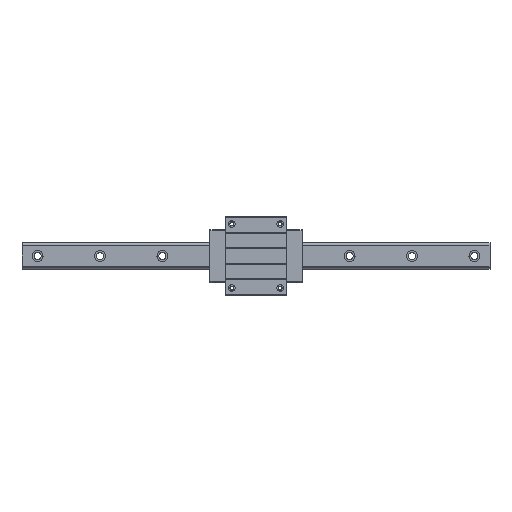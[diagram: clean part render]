
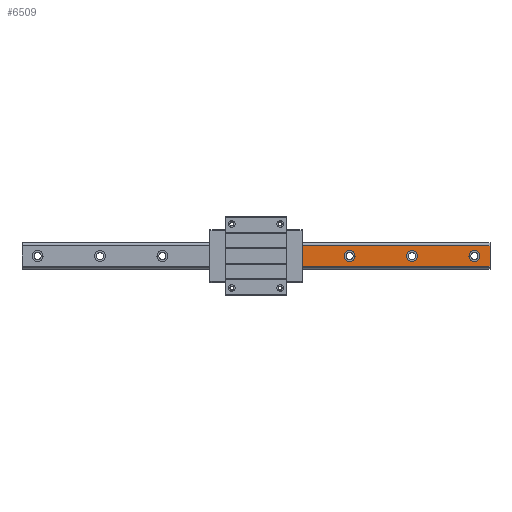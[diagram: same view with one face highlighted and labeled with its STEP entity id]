
A CAD part, top view. The second image highlights one B-rep face of the part: STEP entity #6509.
In plain terms, the highlighted planar face has unit normal (0, 0, 1).
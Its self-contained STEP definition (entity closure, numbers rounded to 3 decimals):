
#89 = CARTESIAN_POINT ( 'NONE',  ( 120., 0., 26. ) ) ;
#160 = VERTEX_POINT ( 'NONE', #5980 ) ;
#161 = ORIENTED_EDGE ( 'NONE', *, *, #6373, .T. ) ;
#258 = CARTESIAN_POINT ( 'NONE',  ( 113., 0., 26. ) ) ;
#344 = VECTOR ( 'NONE', #3740, 1000. ) ;
#372 = AXIS2_PLACEMENT_3D ( 'NONE', #2990, #5027, #513 ) ;
#513 = DIRECTION ( 'NONE',  ( -1., 0., 0. ) ) ;
#644 = DIRECTION ( 'NONE',  ( 0., 0., -1. ) ) ;
#650 = CIRCLE ( 'NONE', #1062, 7. ) ;
#674 = CARTESIAN_POINT ( 'NONE',  ( 59., -13.408, 26. ) ) ;
#935 = EDGE_CURVE ( 'NONE', #3108, #1616, #4055, .T. ) ;
#937 = VERTEX_POINT ( 'NONE', #4126 ) ;
#1062 = AXIS2_PLACEMENT_3D ( 'NONE', #1653, #2170, #5166 ) ;
#1098 = FACE_BOUND ( 'NONE', #1807, .T. ) ;
#1252 = ORIENTED_EDGE ( 'NONE', *, *, #1872, .T. ) ;
#1272 = AXIS2_PLACEMENT_3D ( 'NONE', #4146, #3841, #1841 ) ;
#1286 = EDGE_LOOP ( 'NONE', ( #3282, #4265 ) ) ;
#1410 = VERTEX_POINT ( 'NONE', #2011 ) ;
#1455 = CARTESIAN_POINT ( 'NONE',  ( 193., 0., 26. ) ) ;
#1461 = VERTEX_POINT ( 'NONE', #1624 ) ;
#1497 = ORIENTED_EDGE ( 'NONE', *, *, #4917, .T. ) ;
#1559 = CARTESIAN_POINT ( 'NONE',  ( 300., -13.408, 26. ) ) ;
#1573 = DIRECTION ( 'NONE',  ( -1., 0., 0. ) ) ;
#1616 = VERTEX_POINT ( 'NONE', #258 ) ;
#1624 = CARTESIAN_POINT ( 'NONE',  ( 273., 0., 26. ) ) ;
#1653 = CARTESIAN_POINT ( 'NONE',  ( 120., 0., 26. ) ) ;
#1807 = EDGE_LOOP ( 'NONE', ( #4604, #2511 ) ) ;
#1811 = DIRECTION ( 'NONE',  ( -1., 0., 0. ) ) ;
#1841 = DIRECTION ( 'NONE',  ( 0., -1., 0. ) ) ;
#1847 = EDGE_CURVE ( 'NONE', #1996, #160, #6471, .T. ) ;
#1872 = EDGE_CURVE ( 'NONE', #937, #2894, #3938, .T. ) ;
#1934 = VECTOR ( 'NONE', #5211, 1000. ) ;
#1982 = EDGE_CURVE ( 'NONE', #1410, #1461, #3945, .T. ) ;
#1996 = VERTEX_POINT ( 'NONE', #1455 ) ;
#2011 = CARTESIAN_POINT ( 'NONE',  ( 287., 0., 26. ) ) ;
#2088 = DIRECTION ( 'NONE',  ( 0., 0., -1. ) ) ;
#2109 = PLANE ( 'NONE',  #1272 ) ;
#2136 = ORIENTED_EDGE ( 'NONE', *, *, #6426, .F. ) ;
#2170 = DIRECTION ( 'NONE',  ( 0., 0., -1. ) ) ;
#2252 = EDGE_LOOP ( 'NONE', ( #1252, #2136, #1497, #5059 ) ) ;
#2447 = VECTOR ( 'NONE', #3876, 1000. ) ;
#2452 = CARTESIAN_POINT ( 'NONE',  ( 59., 13.408, 26. ) ) ;
#2511 = ORIENTED_EDGE ( 'NONE', *, *, #1847, .T. ) ;
#2604 = FACE_BOUND ( 'NONE', #1286, .T. ) ;
#2813 = DIRECTION ( 'NONE',  ( -1., 0., 0. ) ) ;
#2840 = CARTESIAN_POINT ( 'NONE',  ( 127., 0., 26. ) ) ;
#2894 = VERTEX_POINT ( 'NONE', #2452 ) ;
#2990 = CARTESIAN_POINT ( 'NONE',  ( 200., 0., 26. ) ) ;
#3042 = LINE ( 'NONE', #3145, #1934 ) ;
#3108 = VERTEX_POINT ( 'NONE', #2840 ) ;
#3130 = EDGE_CURVE ( 'NONE', #160, #1996, #5532, .T. ) ;
#3145 = CARTESIAN_POINT ( 'NONE',  ( 300., 13.6, 26. ) ) ;
#3196 = AXIS2_PLACEMENT_3D ( 'NONE', #3902, #6351, #1811 ) ;
#3282 = ORIENTED_EDGE ( 'NONE', *, *, #1982, .T. ) ;
#3314 = CARTESIAN_POINT ( 'NONE',  ( 200., 0., 26. ) ) ;
#3379 = DIRECTION ( 'NONE',  ( 1., 0., 0. ) ) ;
#3389 = ORIENTED_EDGE ( 'NONE', *, *, #935, .T. ) ;
#3671 = CARTESIAN_POINT ( 'NONE',  ( 280., 0., 26. ) ) ;
#3740 = DIRECTION ( 'NONE',  ( 0., 1., 0. ) ) ;
#3780 = CARTESIAN_POINT ( 'NONE',  ( 59., -13.408, 26. ) ) ;
#3808 = AXIS2_PLACEMENT_3D ( 'NONE', #3671, #644, #4183 ) ;
#3841 = DIRECTION ( 'NONE',  ( 0., 0., -1. ) ) ;
#3876 = DIRECTION ( 'NONE',  ( -1., 0., 0. ) ) ;
#3902 = CARTESIAN_POINT ( 'NONE',  ( 280., 0., 26. ) ) ;
#3938 = LINE ( 'NONE', #5827, #2447 ) ;
#3945 = CIRCLE ( 'NONE', #3196, 7. ) ;
#4055 = CIRCLE ( 'NONE', #6263, 7. ) ;
#4126 = CARTESIAN_POINT ( 'NONE',  ( 300., 13.408, 26. ) ) ;
#4146 = CARTESIAN_POINT ( 'NONE',  ( 300., 0., 26. ) ) ;
#4147 = VERTEX_POINT ( 'NONE', #3780 ) ;
#4167 = AXIS2_PLACEMENT_3D ( 'NONE', #3314, #4872, #2813 ) ;
#4177 = VECTOR ( 'NONE', #3379, 1000. ) ;
#4183 = DIRECTION ( 'NONE',  ( -1., 0., 0. ) ) ;
#4265 = ORIENTED_EDGE ( 'NONE', *, *, #6390, .T. ) ;
#4604 = ORIENTED_EDGE ( 'NONE', *, *, #3130, .T. ) ;
#4630 = FACE_OUTER_BOUND ( 'NONE', #2252, .T. ) ;
#4653 = CIRCLE ( 'NONE', #3808, 7. ) ;
#4872 = DIRECTION ( 'NONE',  ( 0., 0., -1. ) ) ;
#4917 = EDGE_CURVE ( 'NONE', #4147, #5837, #6397, .T. ) ;
#5027 = DIRECTION ( 'NONE',  ( 0., 0., -1. ) ) ;
#5029 = EDGE_CURVE ( 'NONE', #937, #5837, #3042, .T. ) ;
#5059 = ORIENTED_EDGE ( 'NONE', *, *, #5029, .F. ) ;
#5166 = DIRECTION ( 'NONE',  ( -1., 0., 0. ) ) ;
#5211 = DIRECTION ( 'NONE',  ( 0., -1., 0. ) ) ;
#5532 = CIRCLE ( 'NONE', #4167, 7. ) ;
#5545 = FACE_BOUND ( 'NONE', #6023, .T. ) ;
#5827 = CARTESIAN_POINT ( 'NONE',  ( 300., 13.408, 26. ) ) ;
#5837 = VERTEX_POINT ( 'NONE', #1559 ) ;
#5904 = CARTESIAN_POINT ( 'NONE',  ( 300., -13.408, 26. ) ) ;
#5980 = CARTESIAN_POINT ( 'NONE',  ( 207., 0., 26. ) ) ;
#6023 = EDGE_LOOP ( 'NONE', ( #3389, #161 ) ) ;
#6246 = LINE ( 'NONE', #674, #344 ) ;
#6263 = AXIS2_PLACEMENT_3D ( 'NONE', #89, #2088, #1573 ) ;
#6351 = DIRECTION ( 'NONE',  ( 0., 0., -1. ) ) ;
#6373 = EDGE_CURVE ( 'NONE', #1616, #3108, #650, .T. ) ;
#6390 = EDGE_CURVE ( 'NONE', #1461, #1410, #4653, .T. ) ;
#6397 = LINE ( 'NONE', #5904, #4177 ) ;
#6426 = EDGE_CURVE ( 'NONE', #4147, #2894, #6246, .T. ) ;
#6471 = CIRCLE ( 'NONE', #372, 7. ) ;
#6509 = ADVANCED_FACE ( 'NONE', ( #5545, #1098, #2604, #4630 ), #2109, .F. ) ;
